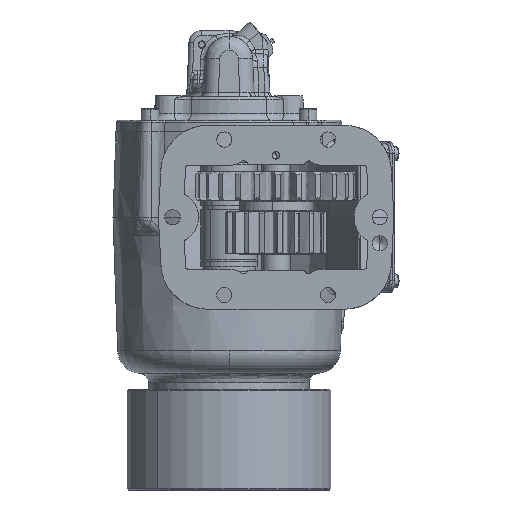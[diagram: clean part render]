
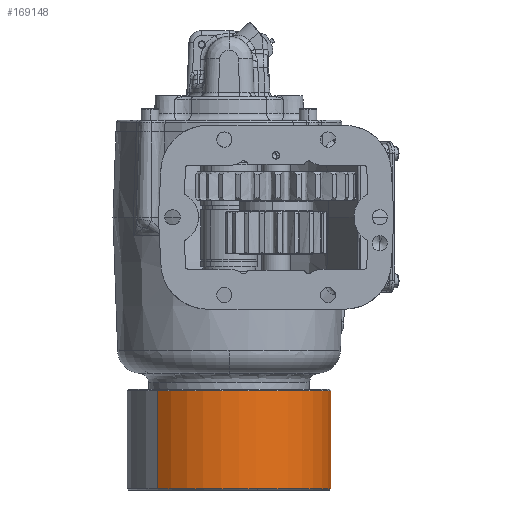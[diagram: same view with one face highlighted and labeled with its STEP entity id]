
A CAD part, front view. The second image highlights one B-rep face of the part: STEP entity #169148.
In plain terms, the highlighted cylindrical face has radius 68.821 mm (diameter 137.643 mm), a partial arc.
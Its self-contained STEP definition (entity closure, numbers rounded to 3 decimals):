
#4942 = EDGE_CURVE ( 'NONE', #151620, #91675, #54599, .T. ) ;
#5912 = ORIENTED_EDGE ( 'NONE', *, *, #193965, .T. ) ;
#8223 = DIRECTION ( 'NONE',  ( -1., 0., 0. ) ) ;
#22434 = LINE ( 'NONE', #112592, #51145 ) ;
#37040 = VERTEX_POINT ( 'NONE', #58583 ) ;
#42129 = AXIS2_PLACEMENT_3D ( 'NONE', #160154, #148298, #55225 ) ;
#47239 = VERTEX_POINT ( 'NONE', #81755 ) ;
#49346 = CARTESIAN_POINT ( 'NONE',  ( 68.821, 0., 67.818 ) ) ;
#49523 = ORIENTED_EDGE ( 'NONE', *, *, #134265, .F. ) ;
#51145 = VECTOR ( 'NONE', #186150, 1000. ) ;
#54274 = DIRECTION ( 'NONE',  ( 0., 0., -1. ) ) ;
#54599 = CIRCLE ( 'NONE', #42129, 68.821 ) ;
#55225 = DIRECTION ( 'NONE',  ( 1., 0., 0. ) ) ;
#58583 = CARTESIAN_POINT ( 'NONE',  ( -68.821, 0., 67.031 ) ) ;
#66417 = EDGE_CURVE ( 'NONE', #47239, #151620, #139523, .T. ) ;
#78774 = EDGE_LOOP ( 'NONE', ( #5912, #153089, #164236, #49523 ) ) ;
#81755 = CARTESIAN_POINT ( 'NONE',  ( 68.821, 0., 67.031 ) ) ;
#91675 = VERTEX_POINT ( 'NONE', #162652 ) ;
#98825 = CARTESIAN_POINT ( 'NONE',  ( 68.821, 0., 0.787 ) ) ;
#100480 = CIRCLE ( 'NONE', #181814, 68.821 ) ;
#101512 = DIRECTION ( 'NONE',  ( 1., 0., 0. ) ) ;
#112592 = CARTESIAN_POINT ( 'NONE',  ( -68.821, 0., 67.818 ) ) ;
#115034 = CYLINDRICAL_SURFACE ( 'NONE', #145238, 68.821 ) ;
#118142 = CARTESIAN_POINT ( 'NONE',  ( 0., 0., 67.031 ) ) ;
#126838 = FACE_OUTER_BOUND ( 'NONE', #78774, .T. ) ;
#134265 = EDGE_CURVE ( 'NONE', #37040, #91675, #22434, .T. ) ;
#139523 = LINE ( 'NONE', #49346, #141165 ) ;
#141165 = VECTOR ( 'NONE', #187511, 1000. ) ;
#145238 = AXIS2_PLACEMENT_3D ( 'NONE', #145424, #54274, #8223 ) ;
#145424 = CARTESIAN_POINT ( 'NONE',  ( 0., 0., 67.818 ) ) ;
#145646 = DIRECTION ( 'NONE',  ( 0., 0., -1. ) ) ;
#148298 = DIRECTION ( 'NONE',  ( 0., 0., 1. ) ) ;
#151620 = VERTEX_POINT ( 'NONE', #98825 ) ;
#153089 = ORIENTED_EDGE ( 'NONE', *, *, #66417, .T. ) ;
#160154 = CARTESIAN_POINT ( 'NONE',  ( 0., 0., 0.787 ) ) ;
#162652 = CARTESIAN_POINT ( 'NONE',  ( -68.821, 0., 0.787 ) ) ;
#164236 = ORIENTED_EDGE ( 'NONE', *, *, #4942, .T. ) ;
#169148 = ADVANCED_FACE ( 'NONE', ( #126838 ), #115034, .T. ) ;
#181814 = AXIS2_PLACEMENT_3D ( 'NONE', #118142, #145646, #101512 ) ;
#186150 = DIRECTION ( 'NONE',  ( 0., 0., -1. ) ) ;
#187511 = DIRECTION ( 'NONE',  ( 0., 0., -1. ) ) ;
#193965 = EDGE_CURVE ( 'NONE', #37040, #47239, #100480, .T. ) ;
